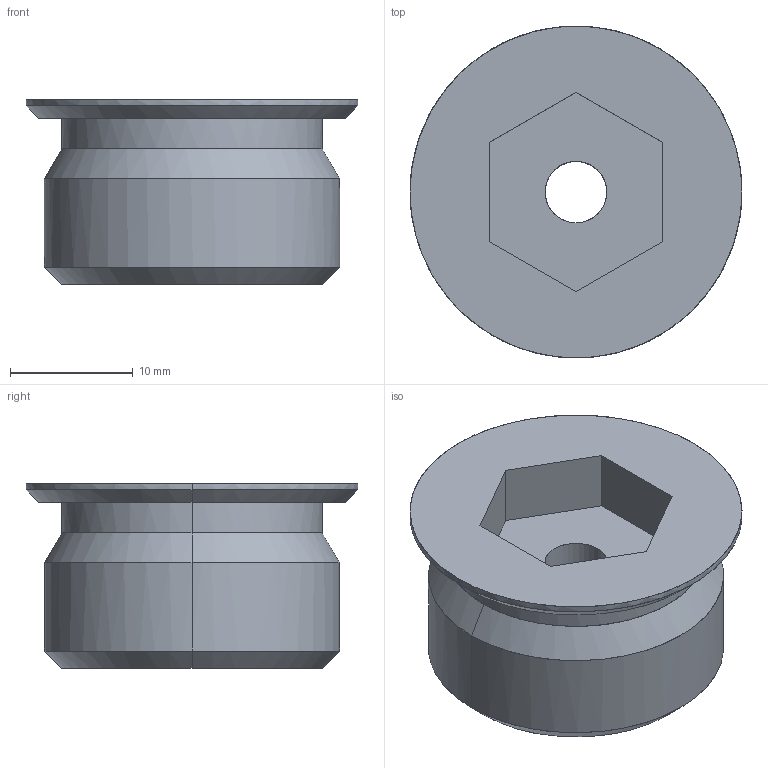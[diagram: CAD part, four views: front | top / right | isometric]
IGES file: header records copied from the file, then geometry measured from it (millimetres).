
Global section: file name: E:\UnigraphicsGraphicData\MISUMI_PRESS-PARTS\IGES\3d_mswzh24_00484_r00.igs; native system: NX V5.0; preprocessor: UGS NX IGES V5.0; author: MISUMI; date: 20110105.161528; units: millimetre
Bounding box: 27 x 27 x 15 mm (x, y, z)
Surface area: 2630.1 mm2 (no closed solid volume)
Topology: 0 solids, 0 shells, 24 faces, 148 edges, 148 vertices
Faces by surface type: bspline 24
